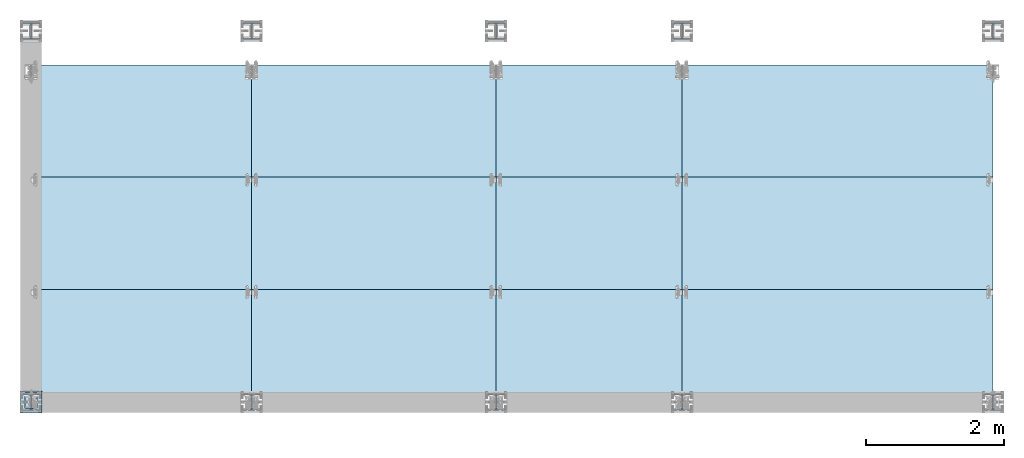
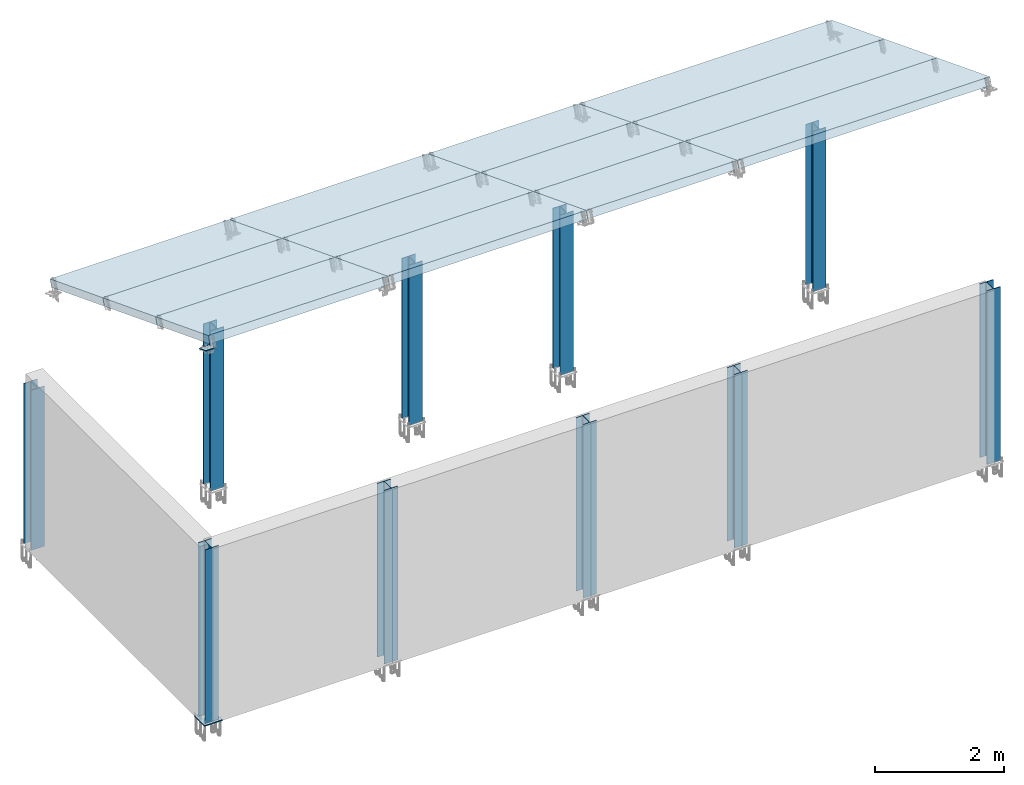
# One storey, part 1 of 72: 12 slabs, 10 columns, 2 plates.
"""IFC4 building model written with IfcOpenShell, lengths in metres."""

from ifc_helpers import new_model, si_unit, frame, frame_2d, origin_with_axes, place, context, project, spatial, polyline, i_section, outline, extrude, clip, halfspace, material, material_profile, profile_set, profile_usage, type_object, element, save


model = new_model("IFC4")

# Units and contexts
model_context = context("Model", 3, precision=1e-05, world=origin_with_axes())
ifc_project = project(units=[si_unit("LENGTHUNIT", "METRE"), si_unit("AREAUNIT", "SQUARE_METRE"), si_unit("VOLUMEUNIT", "CUBIC_METRE"), si_unit("MASSUNIT", "GRAM", prefix="KILO"), si_unit("TIMEUNIT", "SECOND"), si_unit("PLANEANGLEUNIT", "RADIAN"), si_unit("SOLIDANGLEUNIT", "STERADIAN"), si_unit("THERMODYNAMICTEMPERATUREUNIT", "DEGREE_CELSIUS")], contexts=[model_context])

# Site, building, storey
placement_1 = place(None, origin_with_axes())
site = spatial("IfcSite", under=ifc_project, at=placement_1, Name="Italia", CompositionType="ELEMENT")
building = spatial("IfcBuilding", under=site, at=placement_1, Name="Uffici", CompositionType="ELEMENT")
storey = spatial("IfcBuildingStorey", under=building, at=placement_1, Name="Storey 0", CompositionType="ELEMENT", Elevation=0.0)

# Columns
ifc_material_1 = material(Name="Acciaio", Category="Acciaio")
ifc_material_profile = material_profile(ifc_material_1, i_section(OverallWidth=0.24, OverallDepth=0.23, WebThickness=0.0075, FlangeThickness=0.012, FilletRadius=0.021, at=frame_2d((0.0, 0.0), x_axis=(0.0, -0.999999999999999))), Name="1 HEA240")
ifc_profile_set = profile_set([ifc_material_profile])
column_type_1 = type_object("IfcColumnType", Name="1 HEA240", PredefinedType="COLUMN", material=ifc_profile_set)
placement_2 = place(placement_1, origin_with_axes())
column_1_placement = place(placement_2, frame((1.241763e-09, 1.862645e-09, -1.649999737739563), z_axis=(0.0, 0.0, 1.0), x_axis=(1.0, 0.0, 0.0)))
element("IfcColumn", 1, at=column_1_placement, inside=storey, type_object=column_type_1, Name="1", context=model_context, shape_type="Clipping", body=[
    clip(extrude(i_section(OverallWidth=0.24, OverallDepth=0.23, WebThickness=0.0075, FlangeThickness=0.012, FilletRadius=0.021, at=frame_2d((0.0, 0.0), x_axis=(0.0, -0.999999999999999))), frame((0.0, 0.0, 0.0), z_axis=(0.0, 0.0, 1.0), x_axis=(0.0, 1.0, 0.0)), (0.0, 0.0, 1.0), 4.95), halfspace(frame((0.0, 0.0, 1.67), z_axis=(0.0, 0.0, -1.0), x_axis=(1.0, 0.0, 0.0)), False)),
])
ifc_profile_usage_1 = profile_usage(ifc_profile_set, cardinal=5)
column_type_2 = type_object("IfcColumnType", Name="1 HEA240", PredefinedType="COLUMN", material=ifc_profile_usage_1)
column_2_placement = place(placement_2, frame((1.241763e-09, 5.389999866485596, -1.649999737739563), z_axis=(0.0, 0.0, 1.0), x_axis=(1.0, 0.0, 0.0)))
element("IfcColumn", 2, at=column_2_placement, inside=storey, type_object=column_type_2, Name="11", context=model_context, shape_type="Clipping", body=[
    clip(clip(extrude(i_section(OverallWidth=0.24, OverallDepth=0.23, WebThickness=0.0075, FlangeThickness=0.012, FilletRadius=0.021, at=frame_2d((0.0, 0.0), x_axis=(0.0, -0.999999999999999))), frame((0.0, 0.0, 0.0), z_axis=(0.0, 0.0, 1.0), x_axis=(0.0, 1.0, 0.0)), (0.0, 0.0, 1.0), 6.6), halfspace(frame((0.0, 0.0, 1.67), z_axis=(0.0, 0.0, -1.0), x_axis=(1.0, 0.0, 0.0)), False)), halfspace(frame((0.0, 0.0, 4.695), z_axis=(0.0, 0.0, -1.0), x_axis=(1.0, 0.0, 0.0)), True)),
])
ifc_profile_usage_2 = profile_usage(ifc_profile_set, cardinal=5)
column_type_3 = type_object("IfcColumnType", Name="1 HEA240", PredefinedType="COLUMN", material=ifc_profile_usage_2)
column_3_placement = place(placement_2, frame((9.455000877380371, 1.862645e-09, -1.649999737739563), z_axis=(0.0, 0.0, 1.0), x_axis=(1.0, 0.0, 0.0)))
element("IfcColumn", 3, at=column_3_placement, inside=storey, type_object=column_type_3, Name="4", context=model_context, shape_type="Clipping", body=[
    clip(extrude(i_section(OverallWidth=0.24, OverallDepth=0.23, WebThickness=0.0075, FlangeThickness=0.012, FilletRadius=0.021, at=frame_2d((0.0, 0.0), x_axis=(0.0, -0.999999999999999))), frame((0.0, 0.0, 0.0), z_axis=(0.0, 0.0, 1.0), x_axis=(0.0, 1.0, 0.0)), (0.0, 0.0, 1.0), 4.95), halfspace(frame((0.0, 0.0, 1.67), z_axis=(0.0, 0.0, -1.0), x_axis=(1.0, 0.0, 0.0)), False)),
])
ifc_profile_usage_3 = profile_usage(ifc_profile_set, cardinal=5)
column_type_4 = type_object("IfcColumnType", Name="1 HEA240", PredefinedType="COLUMN", material=ifc_profile_usage_3)
column_4_placement = place(placement_2, frame((9.455000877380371, 5.389999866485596, -1.649999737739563), z_axis=(0.0, 0.0, 1.0), x_axis=(1.0, 0.0, 0.0)))
element("IfcColumn", 4, at=column_4_placement, inside=storey, type_object=column_type_4, Name="14", context=model_context, shape_type="Clipping", body=[
    clip(clip(extrude(i_section(OverallWidth=0.24, OverallDepth=0.23, WebThickness=0.0075, FlangeThickness=0.012, FilletRadius=0.021, at=frame_2d((0.0, 0.0), x_axis=(0.0, -0.999999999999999))), frame((0.0, 0.0, 0.0), z_axis=(0.0, 0.0, 1.0), x_axis=(0.0, 1.0, 0.0)), (0.0, 0.0, 1.0), 6.6), halfspace(frame((0.0, 0.0, 1.67), z_axis=(0.0, 0.0, -1.0), x_axis=(1.0, 0.0, 0.0)), False)), halfspace(frame((0.0, 0.0, 4.695), z_axis=(0.0, 0.0, -1.0), x_axis=(1.0, 0.0, 0.0)), True)),
])
ifc_profile_usage_4 = profile_usage(ifc_profile_set, cardinal=5)
column_type_5 = type_object("IfcColumnType", Name="1 HEA240", PredefinedType="COLUMN", material=ifc_profile_usage_4)
column_5_placement = place(placement_2, frame((6.755000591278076, 1.862645e-09, -1.649999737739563), z_axis=(0.0, 0.0, 1.0), x_axis=(1.0, 0.0, 0.0)))
element("IfcColumn", 5, at=column_5_placement, inside=storey, type_object=column_type_5, Name="3", context=model_context, shape_type="Clipping", body=[
    clip(extrude(i_section(OverallWidth=0.24, OverallDepth=0.23, WebThickness=0.0075, FlangeThickness=0.012, FilletRadius=0.021, at=frame_2d((0.0, 0.0), x_axis=(0.0, -0.999999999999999))), frame((0.0, 0.0, 0.0), z_axis=(0.0, 0.0, 1.0), x_axis=(0.0, 1.0, 0.0)), (0.0, 0.0, 1.0), 4.95), halfspace(frame((4.76837e-07, 0.0, 1.67), z_axis=(0.0, 0.0, -1.0), x_axis=(1.0, 0.0, 0.0)), False)),
])
ifc_profile_usage_5 = profile_usage(ifc_profile_set, cardinal=5)
column_type_6 = type_object("IfcColumnType", Name="1 HEA240", PredefinedType="COLUMN", material=ifc_profile_usage_5)
column_6_placement = place(placement_2, frame((6.755000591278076, 5.389999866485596, -1.649999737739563), z_axis=(0.0, 0.0, 1.0), x_axis=(1.0, 0.0, 0.0)))
element("IfcColumn", 6, at=column_6_placement, inside=storey, type_object=column_type_6, Name="13", context=model_context, shape_type="Clipping", body=[
    clip(clip(extrude(i_section(OverallWidth=0.24, OverallDepth=0.23, WebThickness=0.0075, FlangeThickness=0.012, FilletRadius=0.021, at=frame_2d((0.0, 0.0), x_axis=(0.0, -0.999999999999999))), frame((0.0, 0.0, 0.0), z_axis=(0.0, 0.0, 1.0), x_axis=(0.0, 1.0, 0.0)), (0.0, 0.0, 1.0), 6.6), halfspace(frame((4.76837e-07, 0.0, 1.67), z_axis=(0.0, 0.0, -1.0), x_axis=(1.0, 0.0, 0.0)), False)), halfspace(frame((4.76837e-07, 0.0, 4.695), z_axis=(0.0, 0.0, -1.0), x_axis=(1.0, 0.0, 0.0)), True)),
])
ifc_profile_usage_6 = profile_usage(ifc_profile_set, cardinal=5)
column_type_7 = type_object("IfcColumnType", Name="1 HEA240", PredefinedType="COLUMN", material=ifc_profile_usage_6)
column_7_placement = place(placement_2, frame((3.204999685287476, 1.862645e-09, -1.649999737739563), z_axis=(0.0, 0.0, 1.0), x_axis=(1.0, 0.0, 0.0)))
element("IfcColumn", 7, at=column_7_placement, inside=storey, type_object=column_type_7, Name="2", context=model_context, shape_type="Clipping", body=[
    clip(extrude(i_section(OverallWidth=0.24, OverallDepth=0.23, WebThickness=0.0075, FlangeThickness=0.012, FilletRadius=0.021, at=frame_2d((0.0, 0.0), x_axis=(0.0, -0.999999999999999))), frame((0.0, 0.0, 0.0), z_axis=(0.0, 0.0, 1.0), x_axis=(0.0, 1.0, 0.0)), (0.0, 0.0, 1.0), 4.95), halfspace(frame((0.0, 0.0, 1.67), z_axis=(0.0, 0.0, -1.0), x_axis=(1.0, 0.0, 0.0)), False)),
])
ifc_profile_usage_7 = profile_usage(ifc_profile_set, cardinal=5)
column_type_8 = type_object("IfcColumnType", Name="1 HEA240", PredefinedType="COLUMN", material=ifc_profile_usage_7)
column_8_placement = place(placement_2, frame((3.204999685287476, 5.389999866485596, -1.649999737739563), z_axis=(0.0, 0.0, 1.0), x_axis=(1.0, 0.0, 0.0)))
element("IfcColumn", 8, at=column_8_placement, inside=storey, type_object=column_type_8, Name="12", context=model_context, shape_type="Clipping", body=[
    clip(clip(extrude(i_section(OverallWidth=0.24, OverallDepth=0.23, WebThickness=0.0075, FlangeThickness=0.012, FilletRadius=0.021, at=frame_2d((0.0, 0.0), x_axis=(0.0, -0.999999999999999))), frame((0.0, 0.0, 0.0), z_axis=(0.0, 0.0, 1.0), x_axis=(0.0, 1.0, 0.0)), (0.0, 0.0, 1.0), 6.6), halfspace(frame((0.0, 0.0, 1.67), z_axis=(0.0, 0.0, -1.0), x_axis=(1.0, 0.0, 0.0)), False)), halfspace(frame((0.0, 0.0, 4.695), z_axis=(0.0, 0.0, -1.0), x_axis=(1.0, 0.0, 0.0)), True)),
])
ifc_profile_usage_8 = profile_usage(ifc_profile_set, cardinal=5)
column_type_9 = type_object("IfcColumnType", Name="1 HEA240", PredefinedType="COLUMN", material=ifc_profile_usage_8)
column_9_placement = place(placement_2, frame((13.970001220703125, 5.389999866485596, -1.649999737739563), z_axis=(0.0, 0.0, 1.0), x_axis=(1.0, 0.0, 0.0)))
element("IfcColumn", 9, at=column_9_placement, inside=storey, type_object=column_type_9, Name="15", context=model_context, shape_type="Clipping", body=[
    clip(clip(extrude(i_section(OverallWidth=0.24, OverallDepth=0.23, WebThickness=0.0075, FlangeThickness=0.012, FilletRadius=0.021, at=frame_2d((0.0, 0.0), x_axis=(0.0, -0.999999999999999))), frame((0.0, 0.0, 0.0), z_axis=(0.0, 0.0, 1.0), x_axis=(0.0, 1.0, 0.0)), (0.0, 0.0, 1.0), 6.6), halfspace(frame((0.0, 0.0, 1.67), z_axis=(0.0, 0.0, -1.0), x_axis=(1.0, 0.0, 0.0)), False)), halfspace(frame((0.0, 0.0, 4.695), z_axis=(0.0, 0.0, -1.0), x_axis=(1.0, 0.0, 0.0)), True)),
])
ifc_profile_usage_9 = profile_usage(ifc_profile_set, cardinal=5)
column_type_10 = type_object("IfcColumnType", Name="1 HEA240", PredefinedType="COLUMN", material=ifc_profile_usage_9)
column_10_placement = place(placement_2, frame((13.970001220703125, 1.862645e-09, -1.649999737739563), z_axis=(0.0, 0.0, 1.0), x_axis=(1.0, 0.0, 0.0)))
element("IfcColumn", 10, at=column_10_placement, inside=storey, type_object=column_type_10, Name="5", context=model_context, shape_type="Clipping", body=[
    clip(extrude(i_section(OverallWidth=0.24, OverallDepth=0.23, WebThickness=0.0075, FlangeThickness=0.012, FilletRadius=0.021, at=frame_2d((0.0, 0.0), x_axis=(0.0, -0.999999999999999))), frame((0.0, 0.0, 0.0), z_axis=(0.0, 0.0, 1.0), x_axis=(0.0, 1.0, 0.0)), (0.0, 0.0, 1.0), 4.95), halfspace(frame((0.0, 0.0, 1.67), z_axis=(0.0, 0.0, -1.0), x_axis=(1.0, 0.0, 0.0)), False)),
])

# Plates
plate_type_1 = type_object("IfcPlateType", Name="Collegamenti 0001_0101 0002_0102 0003_0103 0004_0104 0005_0105 0011_0111 0012_0112 0013_0113 0014_0114 0015_0115", PredefinedType="SHEET")
plate_1_placement = place(placement_2, origin_with_axes())
element("IfcPlate", 11, at=plate_1_placement, inside=storey, type_object=plate_type_1, Name="Collegamenti 0001_0101 0002_0102 0003_0103 0004_0104 0005_0105 0011_0111 0012_0112 0013_0113 0014_0114 0015_0115", context=model_context, shape_type="SweptSolid", body=[
    extrude(outline(polyline([(0.0, 0.0), (0.0, 0.32), (0.32, 0.32), (0.32, 0.0), (0.0, 0.0)])), frame((-0.16, -0.16, 0.02), z_axis=(0.0, 0.0, -1.0), x_axis=(0.0, 1.0, 0.0)), (0.0, 0.0, 1.0), 0.02),
])
plate_type_2 = type_object("IfcPlateType", Name="Collegamento 0201_0101", PredefinedType="SHEET")
plate_2_placement = place(placement_2, origin_with_axes())
element("IfcPlate", 12, at=plate_2_placement, inside=storey, type_object=plate_type_2, Name="Collegamento 0201_0101", context=model_context, shape_type="SweptSolid", body=[
    extrude(outline(polyline([(0.0, 0.0), (0.18, 0.0), (0.18, -0.23341), (0.0, -0.23341), (0.0, 0.0)])), frame((0.09, -0.0855034, 7.02111), z_axis=(0.0, 0.361523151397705, 0.932363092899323), x_axis=(-1.0, 0.0, 0.0)), (0.0, 0.0, 1.0), 0.0150002),
])

# Slabs
ifc_material_2 = material(Name="Steel", Category="Steel")
slab_type_1 = type_object("IfcSlabType", Name="1 PANNELLO COPERTURA", PredefinedType="FLOOR", material=ifc_material_2)
slab_1_placement = place(placement_2, origin_with_axes())
element("IfcSlab", 13, at=slab_1_placement, inside=storey, type_object=slab_type_1, Name="200", context=model_context, shape_type="SweptSolid", body=[
    extrude(outline(polyline([(0.0, 0.0), (-3.205, 0.0), (-3.205, -1.75182), (0.0, -1.75182), (0.0, 0.0)])), frame((3.205, 3.26667, 5.97333), z_axis=(0.0, -0.361527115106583, -0.932361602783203), x_axis=(1.0, 0.0, 0.0)), (0.0, 0.0, 1.0), 0.14),
])
ifc_material_3 = material(Name="Steel", Category="Steel")
slab_type_2 = type_object("IfcSlabType", Name="1 PANNELLO COPERTURA", PredefinedType="FLOOR", material=ifc_material_3)
slab_2_placement = place(placement_2, origin_with_axes())
element("IfcSlab", 14, at=slab_2_placement, inside=storey, type_object=slab_type_2, Name="201", context=model_context, shape_type="SweptSolid", body=[
    extrude(outline(polyline([(0.0, 0.0), (-3.205, 0.0), (-3.205, -0.875912), (-3.205, -1.75182), (0.0, -1.75182), (0.0, -0.875912), (0.0, 0.0)])), frame((3.205, 1.63333, 6.60667), z_axis=(0.0, -0.361528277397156, -0.932361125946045), x_axis=(1.0, 0.0, 0.0)), (0.0, 0.0, 1.0), 0.14),
])
ifc_material_4 = material(Name="Steel", Category="Steel")
slab_type_3 = type_object("IfcSlabType", Name="1 PANNELLO COPERTURA", PredefinedType="FLOOR", material=ifc_material_4)
slab_3_placement = place(placement_2, origin_with_axes())
element("IfcSlab", 15, at=slab_3_placement, inside=storey, type_object=slab_type_3, Name="202", context=model_context, shape_type="SweptSolid", body=[
    extrude(outline(polyline([(0.0, 0.0), (-3.205, 0.0), (-3.205, -1.75182), (0.0, -1.75182), (0.0, 0.0)])), frame((3.205, 0.0, 7.24), z_axis=(0.0, -0.361528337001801, -0.932361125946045), x_axis=(1.0, 0.0, 0.0)), (0.0, 0.0, 1.0), 0.14),
])
ifc_material_5 = material(Name="Steel", Category="Steel")
slab_type_4 = type_object("IfcSlabType", Name="1 PANNELLO COPERTURA", PredefinedType="FLOOR", material=ifc_material_5)
slab_4_placement = place(placement_2, origin_with_axes())
element("IfcSlab", 16, at=slab_4_placement, inside=storey, type_object=slab_type_4, Name="203", context=model_context, shape_type="SweptSolid", body=[
    extrude(outline(polyline([(0.0, 0.0), (-3.55, 0.0), (-3.55, -1.75182), (0.0, -1.75182), (0.0, 0.0)])), frame((6.755, 0.0, 7.24), z_axis=(0.0, -0.361528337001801, -0.932361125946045), x_axis=(1.0, 0.0, 0.0)), (0.0, 0.0, 1.0), 0.14),
])
ifc_material_6 = material(Name="Steel", Category="Steel")
slab_type_5 = type_object("IfcSlabType", Name="1 PANNELLO COPERTURA", PredefinedType="FLOOR", material=ifc_material_6)
slab_5_placement = place(placement_2, origin_with_axes())
element("IfcSlab", 17, at=slab_5_placement, inside=storey, type_object=slab_type_5, Name="204", context=model_context, shape_type="SweptSolid", body=[
    extrude(outline(polyline([(0.0, 0.0), (-3.55, 0.0), (-3.55, -0.875912), (-3.55, -1.75182), (0.0, -1.75182), (0.0, -0.875912), (0.0, 0.0)])), frame((6.755, 1.63333, 6.60667), z_axis=(0.0, -0.361528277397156, -0.932361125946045), x_axis=(1.0, 0.0, 0.0)), (0.0, 0.0, 1.0), 0.14),
])
ifc_material_7 = material(Name="Steel", Category="Steel")
slab_type_6 = type_object("IfcSlabType", Name="1 PANNELLO COPERTURA", PredefinedType="FLOOR", material=ifc_material_7)
slab_6_placement = place(placement_2, origin_with_axes())
element("IfcSlab", 18, at=slab_6_placement, inside=storey, type_object=slab_type_6, Name="205", context=model_context, shape_type="SweptSolid", body=[
    extrude(outline(polyline([(0.0, 0.0), (-3.55, 0.0), (-3.55, -1.75182), (0.0, -1.75182), (0.0, 0.0)])), frame((6.755, 3.26667, 5.97333), z_axis=(0.0, -0.361527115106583, -0.932361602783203), x_axis=(1.0, 0.0, 0.0)), (0.0, 0.0, 1.0), 0.14),
])
ifc_material_8 = material(Name="Steel", Category="Steel")
slab_type_7 = type_object("IfcSlabType", Name="1 PANNELLO COPERTURA", PredefinedType="FLOOR", material=ifc_material_8)
slab_7_placement = place(placement_2, origin_with_axes())
element("IfcSlab", 19, at=slab_7_placement, inside=storey, type_object=slab_type_7, Name="206", context=model_context, shape_type="SweptSolid", body=[
    extrude(outline(polyline([(0.0, 0.0), (-2.7, 0.0), (-2.7, -1.75182), (0.0, -1.75182), (0.0, 0.0)])), frame((9.455, 3.26667, 5.97333), z_axis=(0.0, -0.361527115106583, -0.932361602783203), x_axis=(1.0, 0.0, 0.0)), (0.0, 0.0, 1.0), 0.14),
])
ifc_material_9 = material(Name="Steel", Category="Steel")
slab_type_8 = type_object("IfcSlabType", Name="1 PANNELLO COPERTURA", PredefinedType="FLOOR", material=ifc_material_9)
slab_8_placement = place(placement_2, origin_with_axes())
element("IfcSlab", 20, at=slab_8_placement, inside=storey, type_object=slab_type_8, Name="207", context=model_context, shape_type="SweptSolid", body=[
    extrude(outline(polyline([(0.0, 0.0), (-2.7, 0.0), (-2.7, -0.875912), (-2.7, -1.75182), (0.0, -1.75182), (0.0, -0.875912), (0.0, 0.0)])), frame((9.455, 1.63333, 6.60667), z_axis=(0.0, -0.361528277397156, -0.932361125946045), x_axis=(1.0, 0.0, 0.0)), (0.0, 0.0, 1.0), 0.14),
])
ifc_material_10 = material(Name="Steel", Category="Steel")
slab_type_9 = type_object("IfcSlabType", Name="1 PANNELLO COPERTURA", PredefinedType="FLOOR", material=ifc_material_10)
slab_9_placement = place(placement_2, origin_with_axes())
element("IfcSlab", 21, at=slab_9_placement, inside=storey, type_object=slab_type_9, Name="208", context=model_context, shape_type="SweptSolid", body=[
    extrude(outline(polyline([(0.0, 0.0), (-2.7, 0.0), (-2.7, -1.75182), (0.0, -1.75182), (0.0, 0.0)])), frame((9.455, 0.0, 7.24), z_axis=(0.0, -0.361528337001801, -0.932361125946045), x_axis=(1.0, 0.0, 0.0)), (0.0, 0.0, 1.0), 0.14),
])
ifc_material_11 = material(Name="Steel", Category="Steel")
slab_type_10 = type_object("IfcSlabType", Name="1 PANNELLO COPERTURA", PredefinedType="FLOOR", material=ifc_material_11)
slab_10_placement = place(placement_2, origin_with_axes())
element("IfcSlab", 22, at=slab_10_placement, inside=storey, type_object=slab_type_10, Name="209", context=model_context, shape_type="SweptSolid", body=[
    extrude(outline(polyline([(0.0, 0.0), (-4.515, 0.0), (-4.515, -1.75182), (0.0, -1.75182), (0.0, 0.0)])), frame((13.97, 0.0, 7.24), z_axis=(0.0, -0.361528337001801, -0.932361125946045), x_axis=(1.0, 0.0, 0.0)), (0.0, 0.0, 1.0), 0.14),
])
ifc_material_12 = material(Name="Steel", Category="Steel")
slab_type_11 = type_object("IfcSlabType", Name="1 PANNELLO COPERTURA", PredefinedType="FLOOR", material=ifc_material_12)
slab_11_placement = place(placement_2, origin_with_axes())
element("IfcSlab", 23, at=slab_11_placement, inside=storey, type_object=slab_type_11, Name="210", context=model_context, shape_type="SweptSolid", body=[
    extrude(outline(polyline([(0.0, 0.0), (-4.515, 0.0), (-4.515, -0.875912), (-4.515, -1.75182), (0.0, -1.75182), (0.0, -0.875912), (0.0, 0.0)])), frame((13.97, 1.63333, 6.60667), z_axis=(0.0, -0.361528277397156, -0.932361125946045), x_axis=(1.0, 0.0, 0.0)), (0.0, 0.0, 1.0), 0.14),
])
ifc_material_13 = material(Name="Steel", Category="Steel")
slab_type_12 = type_object("IfcSlabType", Name="1 PANNELLO COPERTURA", PredefinedType="FLOOR", material=ifc_material_13)
slab_12_placement = place(placement_2, origin_with_axes())
element("IfcSlab", 24, at=slab_12_placement, inside=storey, type_object=slab_type_12, Name="211", context=model_context, shape_type="SweptSolid", body=[
    extrude(outline(polyline([(0.0, 0.0), (-4.515, 0.0), (-4.515, -1.75182), (0.0, -1.75182), (0.0, 0.0)])), frame((13.97, 3.26667, 5.97333), z_axis=(0.0, -0.361527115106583, -0.932361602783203), x_axis=(1.0, 0.0, 0.0)), (0.0, 0.0, 1.0), 0.14),
])

save(model, "model.ifc")
